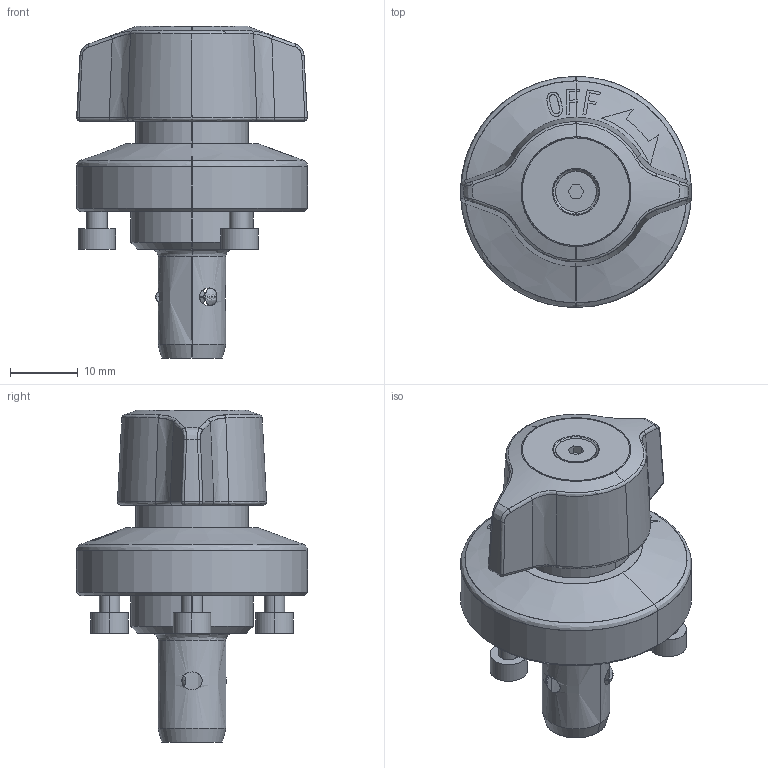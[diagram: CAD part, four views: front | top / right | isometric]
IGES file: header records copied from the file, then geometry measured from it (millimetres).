
Start section: SolidWorks IGES file using analytic representation for surfaces
Global section: file name: X:\11_SW2020-Inv2020\00_全2021-11新製品まで\q\QCWE1034-14\qcwe1034-14.IGS; native system: SolidWorks 2020; preprocessor: SolidWorks 2020; author: ImaoCorp; date: 211021.172746; units: millimetre
Bounding box: 34 x 34 x 48.85 mm (x, y, z)
Surface area: 7205.2 mm2 (no closed solid volume)
Topology: 0 solids, 0 shells, 259 faces, 3370 edges, 3366 vertices
Faces by surface type: bspline 167, revolution 92
